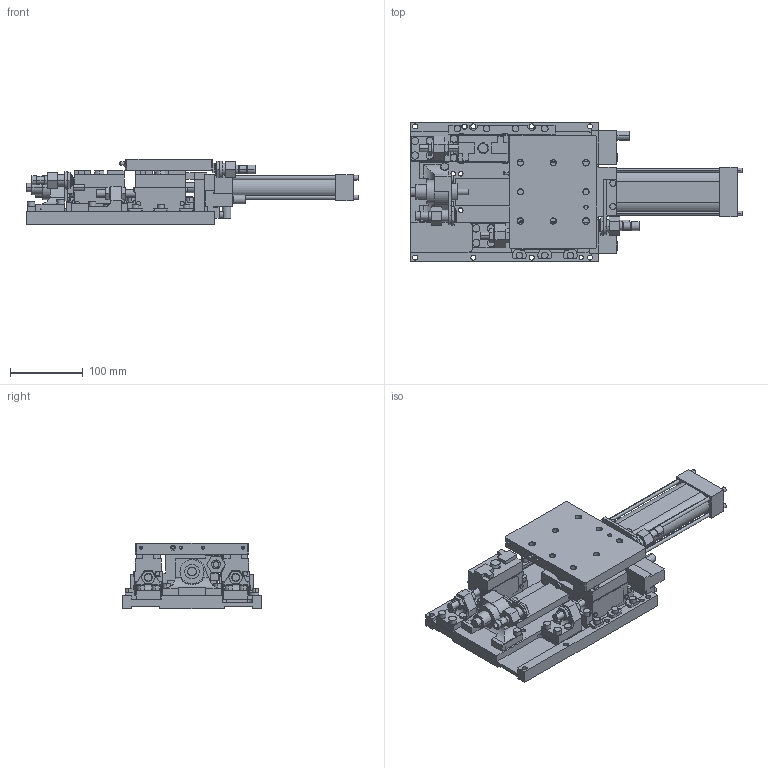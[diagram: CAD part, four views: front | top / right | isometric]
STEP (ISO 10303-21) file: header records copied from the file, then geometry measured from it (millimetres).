
FILE_DESCRIPTION (( 'STEP AP214' ), '1' );
FILE_NAME ('slg40_100_xxx_dxh.STEP', '2019-12-19T12:52:52', ( '' ), ( '' ), 'SwSTEP 2.0', 'SolidWorks 2019', '' );
FILE_SCHEMA (( 'AUTOMOTIVE_DESIGN' ));
Length unit declared in the file: millimetre
Products named in the file (8): otturatore_sx_slg40; deceleratore_slg40; otturatore_dx_slg40; staffa_ferma_otturatore_slg40; slg40_100_xxx_dxh; staffa_deceleratore_slg40; base_slg40_100; piastra_superiore_slg40
Assembly tree (8 placements, depth 2):
  slg40_100_xxx_dxh
    base_slg40_100
    piastra_superiore_slg40
    staffa_deceleratore_slg40
    deceleratore_slg40
    staffa_ferma_otturatore_slg40  x2
    otturatore_sx_slg40
    otturatore_dx_slg40
Bounding box: 455.6 x 192 x 90 mm (x, y, z)
Volume: 2164922.6 mm3; surface area: 412499.4 mm2
Topology: 18 solids, 20 shells, 1131 faces, 2819 edges, 1770 vertices
Faces by surface type: plane 573, cylinder 408, cone 142, torus 8
Entity records: 35797 total; most frequent: CARTESIAN_POINT 6088, DIRECTION 5702, ORIENTED_EDGE 5296, EDGE_CURVE 2648, AXIS2_PLACEMENT_3D 1992, LINE 1718, VECTOR 1718, VERTEX_POINT 1694
